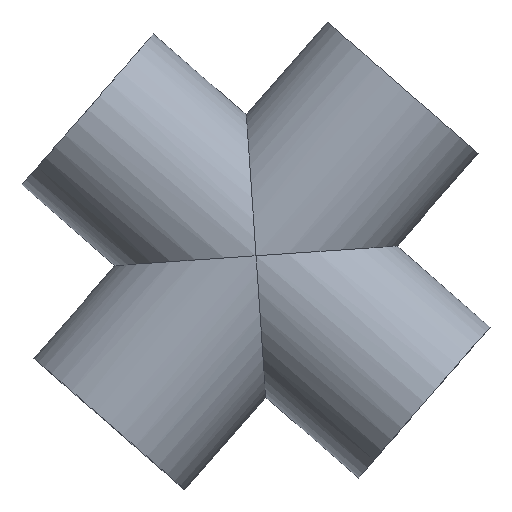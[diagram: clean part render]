
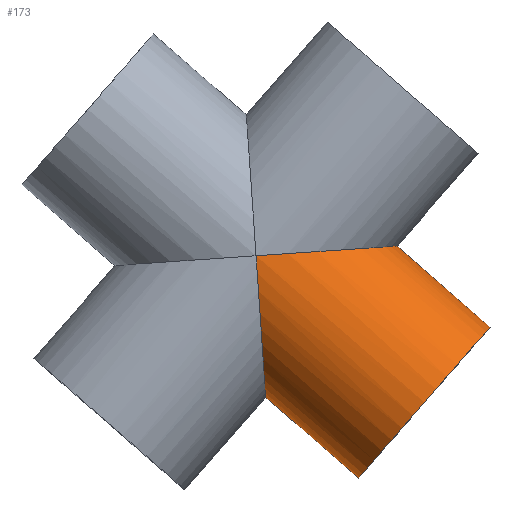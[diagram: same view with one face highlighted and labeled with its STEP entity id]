
A CAD part, top view. The second image highlights one B-rep face of the part: STEP entity #173.
In plain terms, the highlighted cylindrical face has radius 6.5 mm (diameter 13 mm), a partial arc.
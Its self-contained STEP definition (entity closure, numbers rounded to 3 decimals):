
#6 = FACE_OUTER_BOUND ( 'NONE', #102, .T. ) ;
#8 = CIRCLE ( 'NONE', #382, 6.5 ) ;
#12 = ORIENTED_EDGE ( 'NONE', *, *, #346, .F. ) ;
#13 = DIRECTION ( 'NONE',  ( -0.657, -0.754, 0.001 ) ) ;
#43 =( BOUNDED_CURVE ( )  B_SPLINE_CURVE ( 3, ( #142, #212, #101, #223 ),
 .UNSPECIFIED., .F., .T. ) 
 B_SPLINE_CURVE_WITH_KNOTS ( ( 4, 4 ),
 ( 4.712, 6.283 ),
 .UNSPECIFIED. ) 
 CURVE ( )  GEOMETRIC_REPRESENTATION_ITEM ( )  RATIONAL_B_SPLINE_CURVE ( ( 1., 0.805, 0.805, 1. ) ) 
 REPRESENTATION_ITEM ( '' )  );
#57 =( BOUNDED_CURVE ( )  B_SPLINE_CURVE ( 3, ( #329, #222, #141, #445 ),
 .UNSPECIFIED., .F., .T. ) 
 B_SPLINE_CURVE_WITH_KNOTS ( ( 4, 4 ),
 ( 0., 1.571 ),
 .UNSPECIFIED. ) 
 CURVE ( )  GEOMETRIC_REPRESENTATION_ITEM ( )  RATIONAL_B_SPLINE_CURVE ( ( 1., 0.805, 0.805, 1. ) ) 
 REPRESENTATION_ITEM ( '' )  );
#59 = ORIENTED_EDGE ( 'NONE', *, *, #293, .T. ) ;
#64 = EDGE_CURVE ( 'NONE', #182, #120, #43, .T. ) ;
#76 = EDGE_CURVE ( 'NONE', #289, #83, #418, .T. ) ;
#82 = CARTESIAN_POINT ( 'NONE',  ( -28.433, -0.861, -829.246 ) ) ;
#83 = VERTEX_POINT ( 'NONE', #505 ) ;
#85 = CARTESIAN_POINT ( 'NONE',  ( -44.39, 4.42, -829.241 ) ) ;
#90 = CARTESIAN_POINT ( 'NONE',  ( -22.401, -6.116, -829.246 ) ) ;
#100 = DIRECTION ( 'NONE',  ( 0.754, -0.657, 0. ) ) ;
#101 = CARTESIAN_POINT ( 'NONE',  ( -28.431, -0.859, -825.438 ) ) ;
#102 = EDGE_LOOP ( 'NONE', ( #12, #482, #446, #392, #59 ) ) ;
#120 = VERTEX_POINT ( 'NONE', #82 ) ;
#141 = CARTESIAN_POINT ( 'NONE',  ( -37.231, -6.86, -822.738 ) ) ;
#142 = CARTESIAN_POINT ( 'NONE',  ( -37.601, -1.488, -822.741 ) ) ;
#173 = ADVANCED_FACE ( 'NONE', ( #6 ), #375, .T. ) ;
#177 = CARTESIAN_POINT ( 'NONE',  ( -37.601, -1.488, -822.741 ) ) ;
#182 = VERTEX_POINT ( 'NONE', #177 ) ;
#195 = AXIS2_PLACEMENT_3D ( 'NONE', #85, #290, #13 ) ;
#212 = CARTESIAN_POINT ( 'NONE',  ( -32.229, -1.119, -822.744 ) ) ;
#222 = CARTESIAN_POINT ( 'NONE',  ( -36.971, -10.661, -825.428 ) ) ;
#223 = CARTESIAN_POINT ( 'NONE',  ( -28.433, -0.861, -829.246 ) ) ;
#225 = LINE ( 'NONE', #380, #238 ) ;
#238 = VECTOR ( 'NONE', #100, 1000. ) ;
#265 = CARTESIAN_POINT ( 'NONE',  ( -36.973, -10.663, -829.236 ) ) ;
#289 = VERTEX_POINT ( 'NONE', #265 ) ;
#290 = DIRECTION ( 'NONE',  ( 0.754, -0.657, 0. ) ) ;
#291 = CARTESIAN_POINT ( 'NONE',  ( -26.671, -11.017, -829.241 ) ) ;
#293 = EDGE_CURVE ( 'NONE', #83, #407, #8, .T. ) ;
#329 = CARTESIAN_POINT ( 'NONE',  ( -36.973, -10.663, -829.236 ) ) ;
#346 = EDGE_CURVE ( 'NONE', #120, #407, #225, .T. ) ;
#369 = CARTESIAN_POINT ( 'NONE',  ( -48.66, -0.481, -829.236 ) ) ;
#375 = CYLINDRICAL_SURFACE ( 'NONE', #195, 6.5 ) ;
#379 = DIRECTION ( 'NONE',  ( 0.754, -0.657, 0. ) ) ;
#380 = CARTESIAN_POINT ( 'NONE',  ( -40.12, 9.321, -829.246 ) ) ;
#382 = AXIS2_PLACEMENT_3D ( 'NONE', #291, #448, #416 ) ;
#386 = VECTOR ( 'NONE', #379, 1000. ) ;
#392 = ORIENTED_EDGE ( 'NONE', *, *, #76, .T. ) ;
#407 = VERTEX_POINT ( 'NONE', #90 ) ;
#408 = EDGE_CURVE ( 'NONE', #289, #182, #57, .T. ) ;
#416 = DIRECTION ( 'NONE',  ( 0., -0.001, -1. ) ) ;
#418 = LINE ( 'NONE', #369, #386 ) ;
#445 = CARTESIAN_POINT ( 'NONE',  ( -37.601, -1.488, -822.741 ) ) ;
#446 = ORIENTED_EDGE ( 'NONE', *, *, #408, .F. ) ;
#448 = DIRECTION ( 'NONE',  ( -0.754, 0.657, 0. ) ) ;
#482 = ORIENTED_EDGE ( 'NONE', *, *, #64, .F. ) ;
#505 = CARTESIAN_POINT ( 'NONE',  ( -30.941, -15.918, -829.236 ) ) ;
